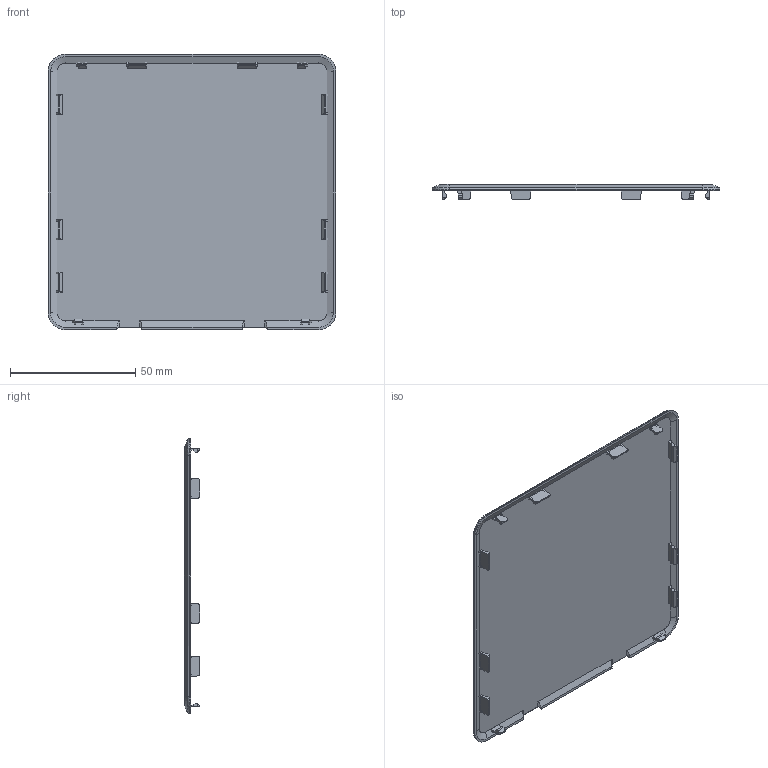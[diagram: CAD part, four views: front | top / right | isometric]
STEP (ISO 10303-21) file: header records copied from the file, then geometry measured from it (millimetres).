
FILE_DESCRIPTION (( 'STEP AP214' ), '1' );
FILE_NAME ('NUC_BE_Top Cover.STEP', '2019-03-20T20:02:59', ( '' ), ( '' ), 'SwSTEP 2.0', 'SolidWorks 2018', '' );
FILE_SCHEMA (( 'AUTOMOTIVE_DESIGN' ));
Length unit declared in the file: millimetre
Products named in the file (1): NUC_BE_Top Cover
Bounding box: 115 x 6.1 x 110 mm (x, y, z)
Volume: 19002.7 mm3; surface area: 26599.1 mm2
Topology: 1 solids, 1 shells, 260 faces, 730 edges, 474 vertices
Faces by surface type: plane 184, cylinder 40, bspline 32, cone 4
Entity records: 14548 total; most frequent: CARTESIAN_POINT 5540, ORIENTED_EDGE 1460, DIRECTION 971, EDGE_CURVE 730, VECTOR 505, LINE 505, VERTEX_POINT 474, UNCERTAINTY_MEASURE_WITH_UNIT 263
